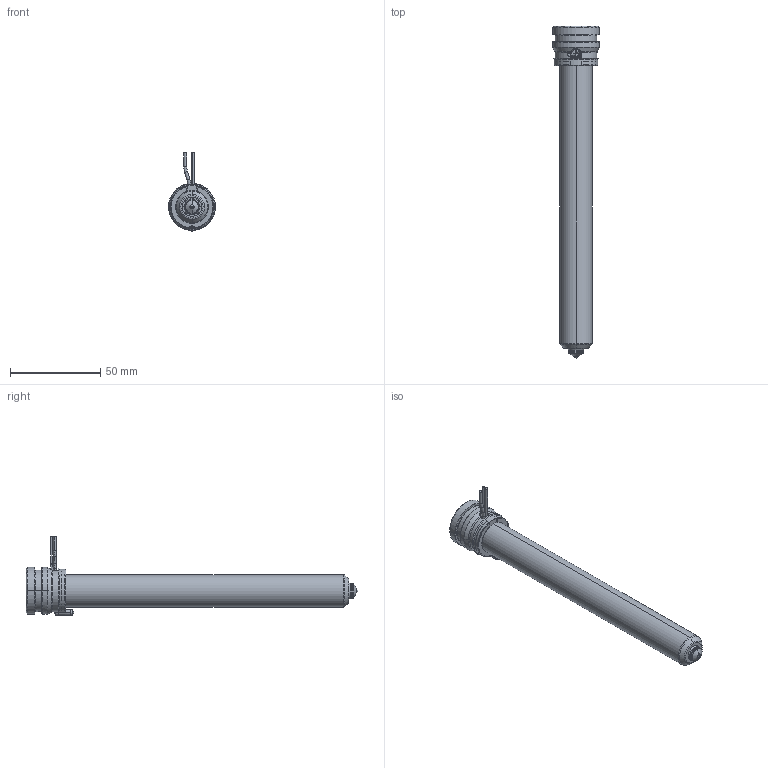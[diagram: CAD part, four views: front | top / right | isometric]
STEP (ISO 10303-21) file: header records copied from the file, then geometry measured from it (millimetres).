
FILE_DESCRIPTION((''),'2;1');
FILE_NAME('MPN-08-24-TS8-166-A','2026-02-05T11:53:31',('UPTIO'),('Thermoplay S.p.A.'),'CREO PARAMETRIC BY PTC INC, 2023494','CREO PARAMETRIC BY PTC INC, 2023494','');
FILE_SCHEMA(('CONFIG_CONTROL_DESIGN','SHAPE_APPEARANCE_LAYERS_GROUPS'));
Length unit declared in the file: millimetre
Products named in the file (1): MPN-08-24-TS8-166-A
Bounding box: 26 x 184 x 43.5 mm (x, y, z)
Volume: 34621.7 mm3; surface area: 45132.8 mm2
Topology: 2 solids, 5 shells, 548 faces, 1437 edges, 892 vertices
Faces by surface type: cylinder 178, plane 146, bspline 82, torus 64, cone 60, sphere 12, extrusion 6
Entity records: 29742 total; most frequent: CARTESIAN_POINT 13569, ORIENTED_EDGE 2854, DIRECTION 2539, EDGE_CURVE 1427, AXIS2_PLACEMENT_3D 992, VERTEX_POINT 892, EDGE_LOOP 575, VECTOR 555
